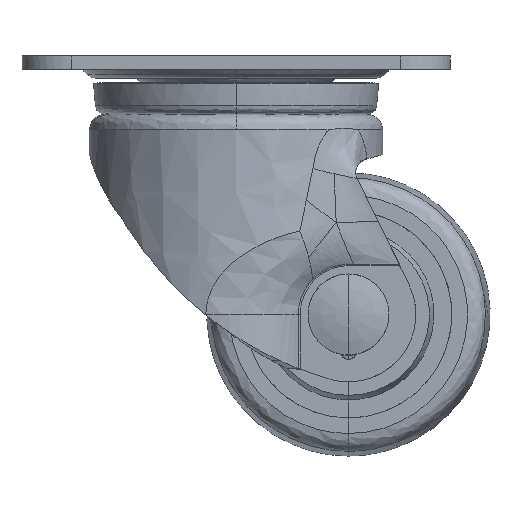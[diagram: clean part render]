
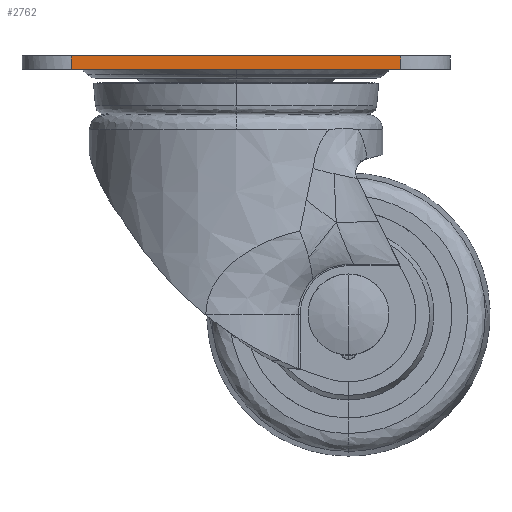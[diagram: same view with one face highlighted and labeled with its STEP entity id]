
A CAD part, front view. The second image highlights one B-rep face of the part: STEP entity #2762.
In plain terms, the highlighted planar face has unit normal (0, -1, 0).
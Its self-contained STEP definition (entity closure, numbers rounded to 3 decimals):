
#645 = EDGE_LOOP ( 'NONE', ( #4526, #4529, #4533, #4536 ) ) ;
#836 = EDGE_CURVE ( 'NONE', #1502, #1501, #6492, .T. ) ;
#843 = EDGE_CURVE ( 'NONE', #1501, #1508, #6502, .T. ) ;
#846 = EDGE_CURVE ( 'NONE', #1507, #1502, #49039, .T. ) ;
#852 = EDGE_CURVE ( 'NONE', #1507, #1508, #15352, .T. ) ;
#1090 = AXIS2_PLACEMENT_3D ( 'NONE', #38708, #38741, #38742 ) ;
#1501 = VERTEX_POINT ( 'NONE', #23917 ) ;
#1502 = VERTEX_POINT ( 'NONE', #23918 ) ;
#1507 = VERTEX_POINT ( 'NONE', #23922 ) ;
#1508 = VERTEX_POINT ( 'NONE', #23923 ) ;
#2762 = ADVANCED_FACE ( 'NONE', ( #15714 ), #38739, .T. ) ;
#4526 = ORIENTED_EDGE ( 'NONE', *, *, #852, .F. ) ;
#4529 = ORIENTED_EDGE ( 'NONE', *, *, #846, .T. ) ;
#4533 = ORIENTED_EDGE ( 'NONE', *, *, #836, .T. ) ;
#4536 = ORIENTED_EDGE ( 'NONE', *, *, #843, .T. ) ;
#6492 = LINE ( 'NONE', #14683, #6494 ) ;
#6494 = VECTOR ( 'NONE', #14693, 1000. ) ;
#6502 = LINE ( 'NONE', #14767, #49043 ) ;
#14683 = CARTESIAN_POINT ( 'NONE',  ( 36.6, -34.9, -3. ) ) ;
#14693 = DIRECTION ( 'NONE',  ( 1., 0., 0. ) ) ;
#14767 = CARTESIAN_POINT ( 'NONE',  ( 36.6, -34.9, -1.5 ) ) ;
#14769 = DIRECTION ( 'NONE',  ( 0., 0., 1. ) ) ;
#14782 = CARTESIAN_POINT ( 'NONE',  ( -36.6, -34.9, -1.5 ) ) ;
#14784 = DIRECTION ( 'NONE',  ( 0., 0., -1. ) ) ;
#14821 = CARTESIAN_POINT ( 'NONE',  ( -47.6, -34.9, 0. ) ) ;
#14823 = DIRECTION ( 'NONE',  ( 1., 0., 0. ) ) ;
#15352 = LINE ( 'NONE', #14821, #15355 ) ;
#15355 = VECTOR ( 'NONE', #14823, 1000. ) ;
#15714 = FACE_OUTER_BOUND ( 'NONE', #645, .T. ) ;
#23917 = CARTESIAN_POINT ( 'NONE',  ( 36.6, -34.9, -3. ) ) ;
#23918 = CARTESIAN_POINT ( 'NONE',  ( -36.6, -34.9, -3. ) ) ;
#23922 = CARTESIAN_POINT ( 'NONE',  ( -36.6, -34.9, 0. ) ) ;
#23923 = CARTESIAN_POINT ( 'NONE',  ( 36.6, -34.9, 0. ) ) ;
#38708 = CARTESIAN_POINT ( 'NONE',  ( 36.6, -34.9, 0. ) ) ;
#38739 = PLANE ( 'NONE',  #1090 ) ;
#38741 = DIRECTION ( 'NONE',  ( 0., -1., 0. ) ) ;
#38742 = DIRECTION ( 'NONE',  ( -1., 0., 0. ) ) ;
#49030 = VECTOR ( 'NONE', #14784, 1000. ) ;
#49039 = LINE ( 'NONE', #14782, #49030 ) ;
#49043 = VECTOR ( 'NONE', #14769, 1000. ) ;
